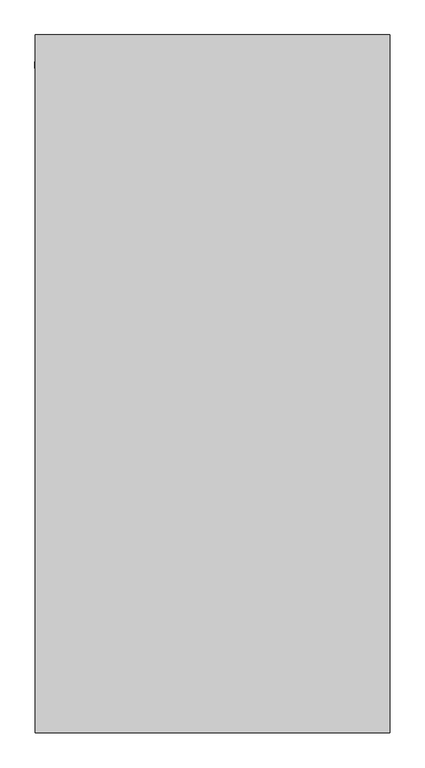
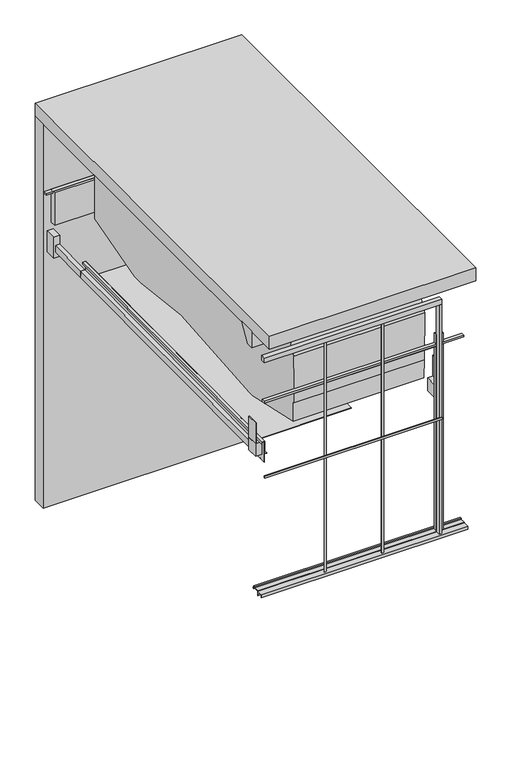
"""IFC4 building model written with IfcOpenShell, lengths in millimetres: proxy geometry, TrendVario_6300 : TrendVario_6300."""

from ifc_helpers import new_model, si_unit, frame, origin, origin_with_axes, place, context, project, spatial, polyline, circle_curve, outline, extrude, faceted_brep, source, transform, mapped, element, save
from ifc_brep_helpers import plane_surface, cylinder_surface, advanced_brep


def generic_models_711d1f75(model_context):
    return source(origin(), model_context, "Body", "SolidModel", [
        advanced_brep(
        [(650.0080034, 319.1090444, 2530.0), (650.0080034, 312.8152781, 3251.1941877), (650.0080034, 610.2970904, 3807.9723191), (650.0080034, 817.391149, 3809.7796016), (650.0080034, 818.414475, 3811.6948969), (650.0080034, 3720.0713452, 3837.0172728), (650.0080034, 5320.0488456, 3400.9650555), (650.0080034, 5320.0564576, 2327.578956), (650.0080034, 4315.7898833, 2049.0711861), (650.0080034, 4227.211946, 2040.6781608), (650.0080034, 3146.7425411, 2165.2190354), (650.0080034, 1426.7734714, 2016.5954437), (650.0080034, 1343.0441931, 2020.9835093), (650.0080034, 327.0638179, 2246.2209358), (650.0080034, 324.5873155, 2530.0), (2550.0080034, 610.2970903, 3807.9723191), (2550.0080034, 312.8152781, 3251.1941877), (2550.0080034, 319.1090444, 2530.0), (2550.0080034, 324.5873155, 2530.0), (2550.0080034, 327.0638178, 2246.2209358), (2550.0080034, 1343.0441931, 2020.9835093), (2550.0080034, 1426.7734714, 2016.5954437), (2550.0080034, 3146.7425411, 2165.2190354), (2550.0080034, 4227.211946, 2040.6781608), (2550.0080034, 4315.7898833, 2049.0711861), (2550.0080034, 5320.0564576, 2327.578956), (2550.0080034, 5320.0488456, 3400.9650555), (2550.0080034, 3720.0713452, 3837.0172728), (2550.0080034, 818.414475, 3811.6948969), (2550.0080034, 817.391149, 3809.7796016)],
        [
            (0, 1),
            (1, 2),
            (2, 3),
            (3, 4),
            (4, 5),
            (5, 6),
            (6, 7),
            (7, 8),
            (8, 9, circle_curve(frame((650.0080034, 4247.9113358, 2293.8333213), z_axis=(-1.0, 6.846874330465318e-12, 0.0), x_axis=(6.846340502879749e-12, 0.9999619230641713, 0.008726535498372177)), 254.0)),
            (9, 10),
            (10, 11),
            (11, 12, circle_curve(frame((650.0080034, 1398.0198551, 2268.9626951), z_axis=(-1.0, 6.846874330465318e-12, 0.0), x_axis=(6.846340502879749e-12, 0.9999619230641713, 0.008726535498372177)), 254.0)),
            (12, 13),
            (13, 14),
            (14, 0),
            (15, 16),
            (16, 17),
            (17, 18),
            (18, 19),
            (19, 20),
            (20, 21, circle_curve(frame((2550.0080034, 1398.0198551, 2268.9626951), z_axis=(1.0, -6.846874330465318e-12, 0.0), x_axis=(6.846340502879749e-12, 0.9999619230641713, 0.008726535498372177)), 254.0)),
            (21, 22),
            (22, 23),
            (23, 24, circle_curve(frame((2550.0080034, 4247.9113358, 2293.8333213), z_axis=(1.0, -6.846874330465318e-12, 0.0), x_axis=(6.846340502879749e-12, 0.9999619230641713, 0.008726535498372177)), 254.0)),
            (24, 25),
            (25, 26),
            (26, 27),
            (27, 28),
            (28, 29),
            (29, 15),
            (2, 15),
            (29, 3),
            (1, 16),
            (17, 0),
            (14, 18),
            (4, 28),
            (27, 5),
            (26, 6),
            (25, 7),
            (24, 8),
            (23, 9),
            (22, 10),
            (21, 11),
            (20, 12),
            (19, 13),
        ],
        [
            plane_surface(frame((650.0080034, 428.8717402, 3900.0), z_axis=(-1.0, 6.846035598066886e-12, 0.0), x_axis=(0.0, 0.0, 1.0))),
            plane_surface(frame((2550.0080034, 428.8717402, 3900.0), z_axis=(1.0, -6.846035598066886e-12, 0.0), x_axis=(0.0, 0.0, 1.0))),
            plane_surface(frame((650.0080034, 610.2970904, 3807.9723191), z_axis=(0.0, -0.008726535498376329, 0.9999619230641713), x_axis=(1.0, -6.845999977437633e-12, 0.0))),
            plane_surface(frame((650.0080034, 312.8152781, 3251.1941877), z_axis=(-6.038215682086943e-12, -0.8820017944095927, 0.4712460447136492), x_axis=(1.0, -6.846035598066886e-12, 0.0))),
            plane_surface(frame((650.0080034, 4789.9238543, 2530.0), z_axis=(0.0, 0.0, -1.0), x_axis=(1.0, -6.845999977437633e-12, 0.0))),
            plane_surface(frame((650.0080034, 319.1090444, 2530.0), z_axis=(-6.845774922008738e-12, -0.9999619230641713, -0.008726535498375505), x_axis=(1.0, -6.846035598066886e-12, 0.0))),
            plane_surface(frame((650.0080034, 818.414475, 3811.6948969), z_axis=(0.0, -0.008726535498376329, 0.9999619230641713), x_axis=(1.0, -6.846142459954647e-12, 0.0))),
            plane_surface(frame((650.0080034, 3720.0713452, 3837.0172728), z_axis=(1.8001286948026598e-12, 0.2629460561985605, 0.9648105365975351), x_axis=(1.0, -6.845999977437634e-12, 0.0))),
            plane_surface(frame((650.0080034, 520.9024424, 3254.860204), z_axis=(-6.038309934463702e-12, -0.8820017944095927, 0.4712460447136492), x_axis=(1.0, -6.846142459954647e-12, 0.0))),
            plane_surface(frame((650.0080034, 5320.0488456, 3400.9650555), z_axis=(6.845999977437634e-12, 1.0, 0.0), x_axis=(1.0, -6.845999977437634e-12, 0.0))),
            plane_surface(frame((2550.0080034, 4315.7898833, 2049.0711861), z_axis=(1.7715731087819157e-12, 0.26723837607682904, -0.963630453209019), x_axis=(-1.0, 6.8459999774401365e-12, 0.0))),
            cylinder_surface(frame((2550.0080034, 4247.9113358, 2293.8333213), z_axis=(1.0, -6.846874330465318e-12, 0.0), x_axis=(6.846340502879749e-12, 0.9999619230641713, 0.008726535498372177)), 254.0),
            plane_surface(frame((2550.0080034, 3146.7425411, 2165.2190354), z_axis=(0.0, -0.11450735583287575, -0.9934224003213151), x_axis=(-1.0, 6.8459999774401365e-12, 0.0))),
            plane_surface(frame((2550.0080034, 1426.7734714, 2016.5954437), z_axis=(0.0, 0.08608980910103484, -0.9962873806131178), x_axis=(-1.0, 6.8459999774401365e-12, 0.0))),
            cylinder_surface(frame((2550.0080034, 1398.0198551, 2268.9626951), z_axis=(1.0, -6.846874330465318e-12, 0.0), x_axis=(6.846340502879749e-12, 0.9999619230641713, 0.008726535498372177)), 254.0),
            plane_surface(frame((2550.0080034, 327.0638178, 2246.2209358), z_axis=(-1.539891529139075e-12, -0.21643961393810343, -0.9762960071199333), x_axis=(-1.0, 6.845999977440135e-12, 0.0))),
            plane_surface(frame((2550.0080034, 320.9123456, 2951.1098351), z_axis=(-6.846259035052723e-12, -0.9999619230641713, -0.00872653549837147), x_axis=(-1.0, 6.8459999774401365e-12, 0.0))),
        ],
        [
            (0, [[1, 2, 3, 4, 5, 6, 7, 8, 9, 10, 11, 12, 13, 14, 15]]),
            (1, [[16, 17, 18, 19, 20, 21, 22, 23, 24, 25, 26, 27, 28, 29, 30]]),
            (2, [[31, -30, 32, -3]]),
            (3, [[-2, 33, -16, -31]]),
            (4, [[34, -15, 35, -18]]),
            (5, [[-1, -34, -17, -33]]),
            (6, [[-5, 36, -28, 37]]),
            (7, [[-6, -37, -27, 38]]),
            (8, [[-36, -4, -32, -29]]),
            (9, [[-7, -38, -26, 39]]),
            (10, [[-25, 40, -8, -39]]),
            (11, [[-24, 41, -9, -40]]),
            (12, [[-23, 42, -10, -41]]),
            (13, [[-22, 43, -11, -42]]),
            (14, [[-21, 44, -12, -43]]),
            (15, [[-20, 45, -13, -44]]),
            (16, [[-45, -19, -35, -14]]),
        ],
    ),
        extrude(outline(polyline([(1798.6666667, 35.0), (1768.6666667, 35.0), (1768.6666667, 44.0), (1798.6666667, 44.0), (1798.6666667, 35.0)])), origin_with_axes(), (0.0, 0.0, 1.0), 3526.0),
        extrude(outline(polyline([(964.3333333, 35.0), (934.3333333, 35.0), (934.3333333, 44.0), (964.3333333, 44.0), (964.3333333, 35.0)])), origin_with_axes(), (0.0, 0.0, 1.0), 3526.0),
        extrude(outline(polyline([(3000.0, 153.0), (3000.0, 100.0), (97.0, 100.0), (97.0, 153.0), (3000.0, 153.0)])), frame((0.0, 0.0, 2854.0), z_axis=(0.0, 0.0, 1.0), x_axis=(1.0, 0.0, 0.0)), (0.0, 0.0, 1.0), 25.0),
        extrude(outline(polyline([(-3.0, 5419.5930875), (-3.0, 5472.5930875), (3000.0, 5472.5930875), (3000.0, 5419.5930875), (-3.0, 5419.5930875)])), frame((0.0, 0.0, 2854.0), z_axis=(0.0, 0.0, 1.0), x_axis=(1.0, 0.0, 0.0)), (0.0, 0.0, 1.0), 25.0),
        extrude(outline(polyline([(700.0, 5469.6007019), (700.0, 5384.6007019), (100.0, 5384.6007019), (100.0, 5469.6007019), (700.0, 5469.6007019)])), frame((0.0, 0.0, 2379.0), z_axis=(0.0, 0.0, 1.0), x_axis=(1.0, 0.0, 0.0)), (0.0, 0.0, 1.0), 500.0),
        extrude(outline(polyline([(250.0, 3650.0), (250.0, 3900.0), (500.0, 3900.0), (349.6363636, 3650.0), (250.0, 3650.0)])), frame((0.0, 0.0, 0.0), z_axis=(1.0, 0.0, 0.0), x_axis=(0.0, 1.0, 0.0)), (0.0, 0.0, 1.0), 3000.0),
        extrude(outline(polyline([(60.0, 32.0), (60.0, 100.0), (2640.0, 100.0), (2640.0, 32.0), (60.0, 32.0)])), frame((0.0, 0.0, 3526.0), z_axis=(0.0, 0.0, 1.0), x_axis=(1.0, 0.0, 0.0)), (0.0, 0.0, 1.0), 74.0),
        extrude(outline(polyline([(60.0, 20.0), (60.0, 34.0), (2640.0, 34.0), (2640.0, 20.0), (60.0, 20.0)])), frame((0.0, 0.0, 1763.0), z_axis=(0.0, 0.0, 1.0), x_axis=(1.0, 0.0, 0.0)), (0.0, 0.0, 1.0), 30.0),
        extrude(outline(polyline([(2640.0, 32.0), (2600.0, 32.0), (2600.0, 100.0), (2640.0, 100.0), (2640.0, 32.0)])), origin_with_axes(), (0.0, 0.0, 1.0), 3526.0),
        extrude(outline(polyline([(0.0, -19.0), (0.0, 0.0), (812.4784443, 0.0), (812.4784443, -19.0), (0.0, -19.0)])), frame((2682.0, 5410.1905194, 2550.9954553), z_axis=(0.0, -0.008726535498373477, 0.9999619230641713), x_axis=(0.0, -0.9999619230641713, -0.008726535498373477)), (0.0, 0.0, 1.0), 56.0),
        extrude(outline(polyline([(0.0, -59.9999949), (0.0, 0.0), (722.0421176, 0.0), (722.0421176, -59.9999949), (0.0, -59.9999949)])), frame((2610.9999948, 4601.8183039, 2076.9231152), z_axis=(0.0, -0.008726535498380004, 0.9999619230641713), x_axis=(0.0, 0.9999619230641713, 0.008726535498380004)), (0.0, 0.0, 1.0), 100.0),
        extrude(outline(polyline([(0.0, -60.0), (0.0, 0.0), (4430.0, 0.0), (4430.0, -60.0), (0.0, -60.0)])), frame((29.0, 171.9869847, 2038.264563), z_axis=(0.0, -0.008726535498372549, 0.9999619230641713), x_axis=(0.0, 0.9999619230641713, 0.008726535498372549)), (0.0, 0.0, 1.0), 100.0),
        extrude(outline(polyline([(0.0, -60.0), (0.0, 0.0), (685.0, 0.0), (685.0, -60.0), (0.0, -60.0)])), frame((29.0, 4601.8233732, 2076.9231595), z_axis=(0.0, -0.008726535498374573, 0.9999619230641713), x_axis=(0.0, 0.9999619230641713, 0.008726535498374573)), (0.0, 0.0, 1.0), 100.0),
        extrude(outline(polyline([(5412.0564576, 1991.9660839), (5242.0564576, 1990.4825163), (5242.0564576, 2314.0), (5412.0564576, 2314.0), (5412.0564576, 1991.9660839)])), frame((2603.0, 0.0, 0.0), z_axis=(1.0, 0.0, 0.0), x_axis=(0.0, 1.0, 0.0)), (0.0, 0.0, 1.0), 90.0),
        extrude(outline(polyline([(5242.5930875, 1990.4871994), (5242.5930875, 2314.0), (5412.5930875, 2314.0), (5412.5930875, 1991.970767), (5242.5930875, 1990.4871994)])), frame((7.0, 0.0, 0.0), z_axis=(1.0, 0.0, 0.0), x_axis=(0.0, 1.0, 0.0)), (0.0, 0.0, 1.0), 90.0),
        extrude(outline(polyline([(7.0, 160.0), (7.0, 330.0), (18.0, 330.0), (18.0, 160.0), (7.0, 160.0)])), frame((0.0, 0.0, 2229.0), z_axis=(0.0, 0.0, 1.0), x_axis=(1.0, 0.0, 0.0)), (0.0, 0.0, 1.0), 315.0),
        extrude(outline(polyline([(7.0, 160.0), (7.0, 330.0), (97.0, 330.0), (97.0, 160.0), (7.0, 160.0)])), frame((0.0, 0.0, 2029.0), z_axis=(0.0, 0.0, 1.0), x_axis=(1.0, 0.0, 0.0)), (0.0, 0.0, 1.0), 195.0),
        extrude(outline(polyline([(2693.0, 330.0), (2693.0, 160.0), (2682.0, 160.0), (2682.0, 330.0), (2693.0, 330.0)])), frame((0.0, 0.0, 2229.0), z_axis=(0.0, 0.0, 1.0), x_axis=(1.0, 0.0, 0.0)), (0.0, 0.0, 1.0), 315.0),
        extrude(outline(polyline([(2693.0, 330.0), (2693.0, 160.0), (2603.0, 160.0), (2603.0, 330.0), (2693.0, 330.0)])), frame((0.0, 0.0, 2029.0), z_axis=(0.0, 0.0, 1.0), x_axis=(1.0, 0.0, 0.0)), (0.0, 0.0, 1.0), 195.0),
        extrude(outline(polyline([(0.0, 2700.0), (3025.0, 2700.0), (3025.0, 2600.0), (8.0, 2600.0), (8.0, 2603.0), (0.0, 2603.0), (0.0, 2700.0)])), frame((0.0, 100.0, 0.0), z_axis=(0.0, 1.0, 0.0), x_axis=(0.0, 0.0, 1.0)), (0.0, 0.0, 1.0), 60.0),
        extrude(outline(polyline([(2603.0, 5472.5930875), (2603.0, 5419.5930875), (97.0, 5419.5930875), (97.0, 5472.5930875), (2603.0, 5472.5930875)])), frame((0.0, 0.0, 2854.0), z_axis=(0.0, 0.0, 1.0), x_axis=(1.0, 0.0, 0.0)), (0.0, 0.0, 1.0), 25.0),
        extrude(outline(polyline([(2603.0, 153.0), (2603.0, 100.0), (100.0, 100.0), (100.0, 153.0), (2603.0, 153.0)])), frame((0.0, 0.0, 2854.0), z_axis=(0.0, 0.0, 1.0), x_axis=(1.0, 0.0, 0.0)), (0.0, 0.0, 1.0), 25.0),
        extrude(outline(polyline([(0.0, 169.9031048), (0.0, 194.9031048), (3000.0, 194.9031048), (3000.0, 169.9031048), (0.0, 169.9031048)])), frame((0.0, 0.0, 7.5), z_axis=(0.0, 0.0, 1.0), x_axis=(1.0, 0.0, 0.0)), (0.0, 0.0, 1.0), 15.0),
        extrude(outline(polyline([(100.0, 0.0), (100.0, -73.0), (97.0, -73.0), (97.0, 7.0), (203.0, 7.0), (203.0, -23.0), (200.0, -23.0), (200.0, 0.0), (100.0, 0.0)])), frame((0.0, 0.0, 0.0), z_axis=(1.0, 0.0, 0.0), x_axis=(0.0, 1.0, 0.0)), (0.0, 0.0, 1.0), 3000.0),
        extrude(outline(polyline([(96.5, 0.0), (96.5, -48.0), (93.5, -48.0), (93.5, -3.0), (13.0, -3.0), (13.0, -48.0), (10.0, -48.0), (10.0, 0.0), (96.5, 0.0)])), frame((0.0, 0.0, 0.0), z_axis=(1.0, 0.0, 0.0), x_axis=(0.0, 1.0, 0.0)), (0.0, 0.0, 1.0), 3000.0),
        extrude(outline(polyline([(3000.0, 5499.9619265), (0.0, 5499.9619265), (0.0, 5699.992384), (3000.0, 5699.992384), (3000.0, 5499.9619265)])), frame((0.0, 0.0, -2000.0), z_axis=(0.0, 0.0, 1.0), x_axis=(1.0, 0.0, 0.0)), (0.0, 0.0, 1.0), 5900.0),
        faceted_brep([(100.0, 4599.8336906, 2304.9182049), (100.0, 4602.6000023, 1987.9302753), (149.0, 4602.6000023, 1987.9302753), (149.0, 4602.1898551, 2034.9284857), (189.0, 4602.1898551, 2034.9284857), (189.0, 4602.2160348, 2031.9285999), (152.0, 4602.2160348, 2031.9285999), (152.0, 4602.6261819, 1984.9303895), (97.0, 4602.6261819, 1984.9303895), (97.0, 4599.8598702, 2301.9183191), (60.0, 4599.8598702, 2301.9183191), (60.0, 4600.0954866, 2274.9193472), (57.0, 4600.0954866, 2274.9193472), (57.0, 4599.8336906, 2304.9182049), (100.0, 100.0, 1945.6365661), (100.0, 97.2075086, 2265.6243815), (57.0, 97.2075086, 2265.6243815), (57.0, 97.4693047, 2235.6255238), (60.0, 97.4693047, 2235.6255238), (60.0, 97.2336882, 2262.6244957), (97.0, 97.2336882, 2262.6244957), (97.0, 100.0, 1945.6365661), (100.0, 199.9961923, 1946.5092197), (100.0, 199.9700127, 1949.5091054), (149.0, 199.9700127, 1949.5091054), (149.0, 199.5598655, 1996.5073158), (189.0, 199.5598655, 1996.5073158), (189.0, 199.5860451, 1993.50743), (152.0, 199.5860451, 1993.50743), (152.0, 199.9961923, 1946.5092197)], [[[0, 1, 2, 3, 4, 5, 6, 7, 8, 9, 10, 11, 12, 13]], [[14, 15, 16, 17, 18, 19, 20, 21]], [[1, 0, 15, 14, 22, 23]], [[2, 1, 23, 24]], [[3, 2, 24, 25]], [[4, 3, 25, 26]], [[5, 4, 26, 27]], [[6, 5, 27, 28]], [[7, 6, 28, 29]], [[8, 7, 29, 22, 14, 21]], [[9, 8, 21, 20]], [[10, 9, 20, 19]], [[11, 10, 19, 18]], [[12, 11, 18, 17]], [[13, 12, 17, 16]], [[0, 13, 16, 15]], [[23, 22, 29, 28, 27, 26, 25, 24]]]),
        extrude(outline(polyline([(3000.0, -200.0), (0.0, -200.0), (0.0, 5700.5930875), (3000.0, 5700.5930875), (3000.0, -200.0)])), frame((0.0, 0.0, 3900.0), z_axis=(0.0, 0.0, 1.0), x_axis=(1.0, 0.0, 0.0)), (0.0, 0.0, 1.0), 200.0),
        extrude(outline(polyline([(319.9719044, 0.0), (2.9719045, 0.0), (2.9719045, -49.0), (49.9719044, -49.0), (49.9719044, -89.0), (46.9719044, -89.0), (46.9719044, -52.0), (-0.0280956, -52.0), (-0.0280956, 3.0), (316.9719044, 3.0), (316.9719044, 40.0), (289.9719044, 40.0), (289.9719044, 43.0), (319.9719044, 43.0), (319.9719044, 0.0)])), frame((2600.0, 4602.6209, 1984.9303434), z_axis=(0.0, 0.9999619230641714, 0.008726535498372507), x_axis=(0.0, -0.008726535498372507, 0.9999619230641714)), (0.0, 0.0, 1.0), 870.0052822),
        extrude(outline(polyline([(100.4126792, 0.0), (100.4126792, -867.6410135), (-899.5873208, -867.6410135), (-899.5873208, 0.0), (100.4126792, 0.0)])), frame((2499.5873208, 5469.3904809, 2042.4927036), z_axis=(0.0, -0.008726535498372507, 0.9999619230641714), x_axis=(1.0, 0.0, 0.0)), (0.0, 0.0, 1.0), 8.0),
        extrude(outline(polyline([(5471.6724901, 2094.5183257), (5472.0564576, 2050.5200011), (5469.0565719, 2050.4938215), (5468.6987839, 2091.4922604), (5236.7076178, 2089.4677041), (5237.0654057, 2048.4692653), (5234.0655199, 2048.4430857), (5233.6815524, 2092.4414103), (5471.6724901, 2094.5183257)])), frame((1600.0, 0.0, 0.0), z_axis=(1.0, 0.0, 0.0), x_axis=(0.0, 1.0, 0.0)), (0.0, 0.0, 1.0), 1000.0),
        extrude(outline(polyline([(2038.9337722, 0.0), (2038.9337722, -1500.0), (-2056.8816536, -1500.0), (-2056.8816536, 0.0), (2038.9337722, 0.0)])), frame((1600.0, 2545.3865539, 2016.9753079), z_axis=(0.0, -0.008726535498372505, 0.9999619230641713), x_axis=(0.0, -0.9999619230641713, -0.008726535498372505)), (0.0, 0.0, 1.0), 8.0),
    ])


if __name__ == "__main__":
    model = new_model("IFC4")
    model_context = context("Model", 3, world=origin())
    ifc_project = project(units=[si_unit("LENGTHUNIT", "METRE", prefix="MILLI")], contexts=[model_context])
    site = spatial("IfcSite", under=ifc_project)
    building = spatial("IfcBuilding", under=site)
    placement = place(None, origin())
    generic_models_shape = generic_models_711d1f75(model_context)
    element("IfcBuildingElementProxy", 1, Name="TrendVario_6300 : TrendVario_6300", ObjectType="TrendVario_6300 : TrendVario_6300", at=placement, inside=building, context=model_context, shape_type="MappedRepresentation", body=[
        mapped(generic_models_shape, transform((0.0, 0.0, 0.0), x_axis=(1.0, 0.0, 0.0), y_axis=(0.0, 1.0, 0.0), z_axis=(0.0, 0.0, 1.0))),
    ])
    save(model, "model.ifc")
